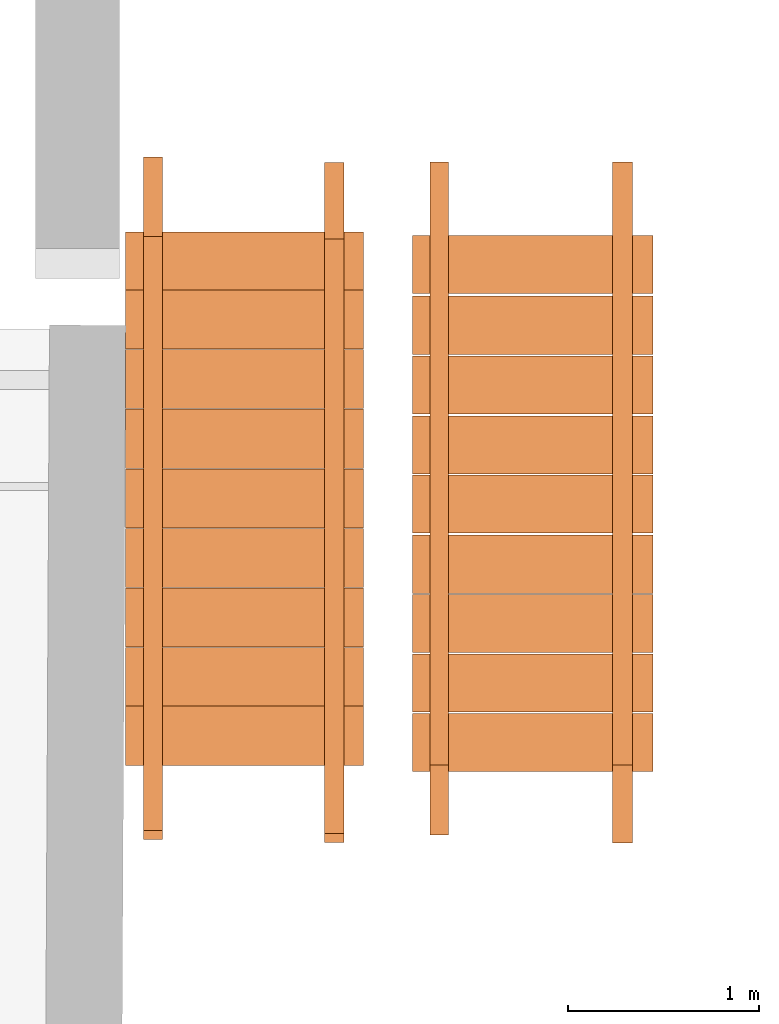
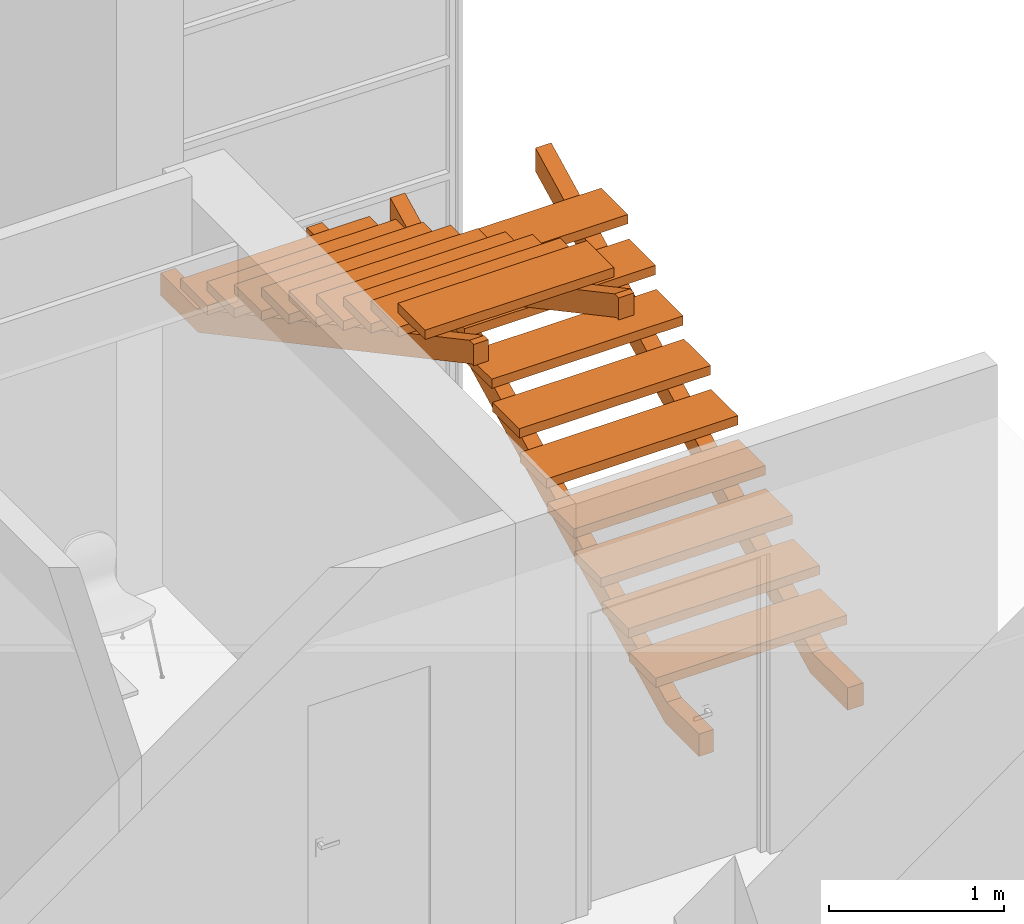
# One storey, part 18 of 19: 6 proxies.
"""IFC2X3 building model written with IfcOpenShell, lengths in millimetres."""

from ifc_helpers import new_model, entity, si_unit, converted_unit, derived_unit, direction, frame, frame_2d, origin, origin_2d_with_axis, place, context, subcontext, project, spatial, polyline, rectangle, outline, extrude, source, transform, mapped, type_object, type_shapes, element, save


model = new_model("IFC2X3")

# Units and contexts
model_context = context("Model", 3, precision=0.01, world=origin(), true_north=direction((6.12303176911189e-17, 1.0)))
context_of_model = context(None, 3, precision=0.01, world=origin(), true_north=direction((6.12303176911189e-17, 1.0)))
body_context = subcontext(model_context, "Body", "Model", "MODEL_VIEW")
ifc_project = project(units=[si_unit("LENGTHUNIT", "METRE", prefix="MILLI"), si_unit("AREAUNIT", "SQUARE_METRE"), si_unit("VOLUMEUNIT", "CUBIC_METRE"), converted_unit("PLANEANGLEUNIT", "DEGREE", entity("IfcRatioMeasure", 0.0174532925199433), si_unit("PLANEANGLEUNIT", "RADIAN"), dimensions=[0, 0, 0, 0, 0, 0, 0]), si_unit("MASSUNIT", "GRAM", prefix="KILO"), derived_unit("MASSDENSITYUNIT", [(si_unit("MASSUNIT", "GRAM", prefix="KILO"), 1), (si_unit("LENGTHUNIT", "METRE"), -3)]), si_unit("TIMEUNIT", "SECOND"), si_unit("FREQUENCYUNIT", "HERTZ"), si_unit("THERMODYNAMICTEMPERATUREUNIT", "DEGREE_CELSIUS"), derived_unit("THERMALTRANSMITTANCEUNIT", [(si_unit("MASSUNIT", "GRAM", prefix="KILO"), 1), (si_unit("THERMODYNAMICTEMPERATUREUNIT", "KELVIN"), -1), (si_unit("TIMEUNIT", "SECOND"), -3)]), derived_unit("VOLUMETRICFLOWRATEUNIT", [(si_unit("LENGTHUNIT", "METRE"), 3), (si_unit("TIMEUNIT", "SECOND"), -1)]), si_unit("ELECTRICCURRENTUNIT", "AMPERE"), si_unit("ELECTRICVOLTAGEUNIT", "VOLT"), si_unit("POWERUNIT", "WATT"), si_unit("FORCEUNIT", "NEWTON", prefix="KILO"), si_unit("ILLUMINANCEUNIT", "LUX"), si_unit("LUMINOUSFLUXUNIT", "LUMEN"), si_unit("LUMINOUSINTENSITYUNIT", "CANDELA"), derived_unit("USERDEFINED", [(si_unit("MASSUNIT", "GRAM", prefix="KILO"), -1), (si_unit("LENGTHUNIT", "METRE"), -2), (si_unit("TIMEUNIT", "SECOND"), 3), (si_unit("LUMINOUSFLUXUNIT", "LUMEN"), 1)]), derived_unit("LINEARVELOCITYUNIT", [(si_unit("LENGTHUNIT", "METRE"), 1), (si_unit("TIMEUNIT", "SECOND"), -1)]), si_unit("PRESSUREUNIT", "PASCAL"), derived_unit("USERDEFINED", [(si_unit("LENGTHUNIT", "METRE"), -2), (si_unit("MASSUNIT", "GRAM", prefix="KILO"), 1), (si_unit("TIMEUNIT", "SECOND"), -2)])], contexts=[model_context, context_of_model])

# Site, building, storey, space
site_placement = place(None, frame((121442.264707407, 135347.995453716, -1800.0)))
site = spatial("IfcSite", under=ifc_project, at=site_placement, Name="Surface", CompositionType="ELEMENT")
building_placement = place(site_placement, origin())
building = spatial("IfcBuilding", under=site, at=building_placement, CompositionType="ELEMENT")
storey_placement = place(building_placement, frame((0.0, 0.0, 5125.0)))
storey = spatial("IfcBuildingStorey", under=building, at=storey_placement, Name="2 korrus", CompositionType="ELEMENT", Elevation=5125.00000000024)
space_placement = place(storey_placement, origin())
space = spatial("IfcSpace", under=storey, at=space_placement, Name="201", CompositionType="ELEMENT", InteriorOrExteriorSpace="INTERNAL")

# Proxies
building_element_proxy_type_1 = type_object("IfcBuildingElementProxyType", Name="Stairs15", PredefinedType="NOTDEFINED")
shared_shape_1 = source(origin(), body_context, "Body", "SweptSolid", [
    extrude(rectangle(XDim=1261.93164285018, YDim=305.0, at=frame_2d((-8.64019966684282e-12, -8.65441052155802e-12), x_axis=(1.0, 0.0))), frame((-83152.8996527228, -114766.549071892, 6430.85451576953), z_axis=(0.0, 0.0, 1.0), x_axis=(-1.0, 0.0, 0.0)), (0.0, 0.0, 1.0), 65.0000000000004),
    extrude(rectangle(XDim=1261.93164285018, YDim=305.0, at=frame_2d((-8.64019966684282e-12, -8.65441052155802e-12), x_axis=(1.0, 0.0))), frame((-83152.8996527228, -117270.487652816, 5156.18791837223), z_axis=(0.0, 0.0, 1.0), x_axis=(-1.0, 0.0, 0.0)), (0.0, 0.0, 1.0), 65.0000000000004),
    extrude(rectangle(XDim=1261.93164285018, YDim=305.0, at=frame_2d((-8.64019966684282e-12, 8.65441052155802e-12), x_axis=(1.0, 0.0))), frame((-83152.8996527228, -116958.678720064, 5313.35451576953), z_axis=(0.0, 0.0, 1.0), x_axis=(-1.0, 0.0, 0.0)), (0.0, 0.0, 1.0), 65.0000000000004),
    extrude(rectangle(XDim=1261.93164285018, YDim=305.0, at=frame_2d((-8.64019966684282e-12, 8.65441052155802e-12), x_axis=(1.0, 0.0))), frame((-83152.8996527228, -116646.549071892, 5475.85451576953), z_axis=(0.0, 0.0, 1.0), x_axis=(-1.0, 0.0, 0.0)), (0.0, 0.0, 1.0), 65.0000000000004),
    extrude(rectangle(XDim=1261.93164285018, YDim=305.0, at=frame_2d((-8.64019966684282e-12, -8.65441052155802e-12), x_axis=(1.0, 0.0))), frame((-83152.8996527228, -116336.549071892, 5630.85451576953), z_axis=(0.0, 0.0, 1.0), x_axis=(-1.0, 0.0, 0.0)), (0.0, 0.0, 1.0), 65.0000000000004),
    extrude(rectangle(XDim=1261.93164285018, YDim=305.0, at=frame_2d((-8.64019966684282e-12, 8.65441052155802e-12), x_axis=(1.0, 0.0))), frame((-83152.8996527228, -116021.549071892, 5788.35451576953), z_axis=(0.0, 0.0, 1.0), x_axis=(-1.0, 0.0, 0.0)), (0.0, 0.0, 1.0), 65.0000000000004),
    extrude(rectangle(XDim=1261.93164285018, YDim=305.0, at=frame_2d((-8.64019966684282e-12, -8.65441052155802e-12), x_axis=(1.0, 0.0))), frame((-83152.8996527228, -115711.549071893, 5950.85451576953), z_axis=(0.0, 0.0, 1.0), x_axis=(-1.0, 0.0, 0.0)), (0.0, 0.0, 1.0), 65.0000000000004),
    extrude(rectangle(XDim=1261.93164285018, YDim=305.0, at=frame_2d((-8.64019966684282e-12, 8.65441052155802e-12), x_axis=(1.0, 0.0))), frame((-83152.8996527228, -115396.549071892, 6105.85451576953), z_axis=(0.0, 0.0, 1.0), x_axis=(-1.0, 0.0, 0.0)), (0.0, 0.0, 1.0), 65.0000000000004),
    extrude(rectangle(XDim=1261.93164285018, YDim=305.0, at=frame_2d((-8.64019966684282e-12, -8.65441052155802e-12), x_axis=(1.0, 0.0))), frame((-83152.8996527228, -115084.049071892, 6268.35451576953), z_axis=(0.0, 0.0, 1.0), x_axis=(-1.0, 0.0, 0.0)), (0.0, 0.0, 1.0), 65.0000000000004),
])
type_shapes(building_element_proxy_type_1, [shared_shape_1])
proxy_1_placement = place(space_placement, frame((0.0, 0.0, -5125.0)))
element("IfcBuildingElementProxy", 1, at=proxy_1_placement, inside=space, type_object=building_element_proxy_type_1, Name="Stairs15:Stairs15", ObjectType="Stairs15", context=body_context, shape_type="MappedRepresentation", body=[
    mapped(shared_shape_1, transform((0.0, 0.0, 0.0), scale=1.0)),
])
building_element_proxy_type_2 = type_object("IfcBuildingElementProxyType", Name="Stairs16", PredefinedType="NOTDEFINED")
shared_shape_2 = source(origin(), body_context, "Body", "SweptSolid", [
    extrude(outline(polyline([(-1094.74486873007, -129.385692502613), (2430.45981915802, -129.385692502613), (2504.34585970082, 16.2040831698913), (-1038.12755753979, 16.2040831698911), (-1365.79195451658, 182.492030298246), (-1436.14129807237, 43.8711883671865), (-1094.74486873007, -129.385692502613)])), frame((-83691.8320065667, -116455.665561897, 5456.2711639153), z_axis=(1.0, 0.0, 0.0), x_axis=(0.0, 0.891737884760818, 0.45255225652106)), (0.0, 0.0, 1.0), 97.4006217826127),
])
type_shapes(building_element_proxy_type_2, [shared_shape_2])
proxy_2_placement = place(space_placement, frame((0.0, 0.0, -5125.0)))
element("IfcBuildingElementProxy", 2, at=proxy_2_placement, inside=space, type_object=building_element_proxy_type_2, Name="Stairs16:Stairs16", ObjectType="Stairs16", context=body_context, shape_type="MappedRepresentation", body=[
    mapped(shared_shape_2, transform((0.0, 0.0, 0.0), scale=1.0)),
])
building_element_proxy_type_3 = type_object("IfcBuildingElementProxyType", Name="Stairs16", PredefinedType="NOTDEFINED")
shared_shape_3 = source(origin(), body_context, "Body", "SweptSolid", [
    extrude(outline(polyline([(-1082.70760831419, -135.494538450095), (2442.4970795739, -135.494538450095), (2516.3831201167, 10.0952372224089), (-1026.09029712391, 10.0952372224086), (-1389.86647534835, 194.709722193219), (-1460.21581890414, 56.0888802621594), (-1082.70760831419, -135.494538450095)])), frame((-82733.909924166, -116469.164215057, 5456.2711639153), z_axis=(1.0, 0.0, 0.0), x_axis=(0.0, 0.891737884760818, 0.45255225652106)), (0.0, 0.0, 1.0), 104.019077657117),
])
type_shapes(building_element_proxy_type_3, [shared_shape_3])
proxy_3_placement = place(space_placement, frame((0.0, 0.0, -5113.21850436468)))
element("IfcBuildingElementProxy", 3, at=proxy_3_placement, inside=space, type_object=building_element_proxy_type_3, Name="Stairs17:Stairs16", ObjectType="Stairs16", context=body_context, shape_type="MappedRepresentation", body=[
    mapped(shared_shape_3, transform((0.0, 0.0, 0.0), scale=1.0)),
])
building_element_proxy_type_4 = type_object("IfcBuildingElementProxyType", Name="Stairs18", PredefinedType="NOTDEFINED")
shared_shape_4 = source(origin(), body_context, "Body", "SweptSolid", [
    extrude(rectangle(XDim=1246.26444333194, YDim=309.999999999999, at=origin_2d_with_axis()), frame((-84663.7562702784, -117235.46902166, 8090.74962839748), z_axis=(0.0, 0.0, 1.0), x_axis=(-1.0, 0.0, 0.0)), (0.0, 0.0, 1.0), 65.0000000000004),
    extrude(rectangle(XDim=1246.26444333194, YDim=309.999999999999, at=origin_2d_with_axis()), frame((-84663.7562702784, -114749.31977467, 6753.24962839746), z_axis=(0.0, 0.0, 1.0), x_axis=(-1.0, 0.0, 0.0)), (0.0, 0.0, 1.0), 65.0000000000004),
    extrude(rectangle(XDim=1246.26444333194, YDim=309.999999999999, at=origin_2d_with_axis()), frame((-84663.7562702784, -115679.193341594, 7255.74962839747), z_axis=(0.0, 0.0, 1.0), x_axis=(-1.0, 0.0, 0.0)), (0.0, 0.0, 1.0), 65.0000000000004),
    extrude(rectangle(XDim=1246.26444333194, YDim=309.999999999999, at=origin_2d_with_axis()), frame((-84663.7562702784, -115991.693341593, 7423.24962839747), z_axis=(0.0, 0.0, 1.0), x_axis=(-1.0, 0.0, 0.0)), (0.0, 0.0, 1.0), 65.0000000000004),
    extrude(rectangle(XDim=1246.26444333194, YDim=309.999999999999, at=frame_2d((0.0, 1.73230318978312e-11), x_axis=(1.0, 0.0))), frame((-84663.7562702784, -116304.193341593, 7588.24962839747), z_axis=(0.0, 0.0, 1.0), x_axis=(-1.0, 0.0, 0.0)), (0.0, 0.0, 1.0), 65.0000000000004),
    extrude(rectangle(XDim=1246.26444333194, YDim=309.999999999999, at=origin_2d_with_axis()), frame((-84663.7562702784, -116615.46902166, 7758.24962839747), z_axis=(0.0, 0.0, 1.0), x_axis=(-1.0, 0.0, 0.0)), (0.0, 0.0, 1.0), 65.0000000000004),
    extrude(rectangle(XDim=1246.26444333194, YDim=309.999999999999, at=frame_2d((0.0, -1.73230318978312e-11), x_axis=(1.0, 0.0))), frame((-84663.7562702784, -116927.96902166, 7923.24962839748), z_axis=(0.0, 0.0, 1.0), x_axis=(-1.0, 0.0, 0.0)), (0.0, 0.0, 1.0), 65.0000000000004),
    extrude(rectangle(XDim=1246.26444333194, YDim=309.999999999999, at=origin_2d_with_axis()), frame((-84663.7562702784, -115366.693341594, 7088.24962839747), z_axis=(0.0, 0.0, 1.0), x_axis=(-1.0, 0.0, 0.0)), (0.0, 0.0, 1.0), 65.0000000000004),
    extrude(rectangle(XDim=1246.26444333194, YDim=309.999999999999, at=frame_2d((0.0, 1.73230318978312e-11), x_axis=(1.0, 0.0))), frame((-84663.7562702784, -115054.31977467, 6918.24962839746), z_axis=(0.0, 0.0, 1.0), x_axis=(-1.0, 0.0, 0.0)), (0.0, 0.0, 1.0), 65.0000000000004),
])
type_shapes(building_element_proxy_type_4, [shared_shape_4])
proxy_4_placement = place(space_placement, frame((0.0, 0.0, -5125.0)))
element("IfcBuildingElementProxy", 4, at=proxy_4_placement, inside=space, type_object=building_element_proxy_type_4, Name="Stairs18:Stairs18", ObjectType="Stairs18", context=body_context, shape_type="MappedRepresentation", body=[
    mapped(shared_shape_4, transform((0.0, 0.0, 0.0), scale=1.0)),
])
building_element_proxy_type_5 = type_object("IfcBuildingElementProxyType", Name="Stairs19", PredefinedType="NOTDEFINED")
shared_shape_5 = source(origin(), body_context, "Body", "SweptSolid", [
    extrude(outline(polyline([(1457.15450192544, -912.840594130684), (1875.34821573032, -912.840594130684), (1875.34821573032, -757.840594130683), (1472.11246053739, -757.840594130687), (-1641.76029029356, 912.235568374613), (-1689.61435113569, 912.23556837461), (-1689.61435113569, 758.445619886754), (-1658.97440135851, 758.445619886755), (1457.15450192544, -912.840594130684)])), frame((-84243.473117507, -116105.386555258, 7347.68790674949), z_axis=(1.0, 0.0, 0.0), x_axis=(0.0, 1.0, 0.0)), (0.0, 0.0, 1.0), 102.010306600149),
])
type_shapes(building_element_proxy_type_5, [shared_shape_5])
proxy_5_placement = place(space_placement, frame((0.0, 0.0, -5125.0)))
element("IfcBuildingElementProxy", 5, at=proxy_5_placement, inside=space, type_object=building_element_proxy_type_5, Name="Stairs19:Stairs19", ObjectType="Stairs19", context=body_context, shape_type="MappedRepresentation", body=[
    mapped(shared_shape_5, transform((0.0, 0.0, 0.0), scale=1.0)),
])
building_element_proxy_type_6 = type_object("IfcBuildingElementProxyType", Name="Stairs19", PredefinedType="NOTDEFINED")
shared_shape_6 = source(origin(), body_context, "Body", "SweptSolid", [
    extrude(outline(polyline([(1455.17239816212, -913.880511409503), (1885.17239816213, -913.880511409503), (1885.17239816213, -758.880511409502), (1470.13035677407, -758.880511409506), (-1643.74239405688, 911.195651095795), (-1691.59645489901, 911.195651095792), (-1691.59645489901, 761.56537172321), (-1668.71224740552, 761.565371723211), (1455.17239816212, -913.880511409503)])), frame((-85191.4577239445, -116103.404451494, 7348.72782402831), z_axis=(1.0, 0.0, 0.0), x_axis=(0.0, 1.0, 0.0)), (0.0, 0.0, 1.0), 98.0260068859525),
])
type_shapes(building_element_proxy_type_6, [shared_shape_6])
proxy_6_placement = place(space_placement, frame((0.0, 15.0, -5126.0362979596)))
element("IfcBuildingElementProxy", 6, at=proxy_6_placement, inside=space, type_object=building_element_proxy_type_6, Name="Stairs20:Stairs19", ObjectType="Stairs19", context=body_context, shape_type="MappedRepresentation", body=[
    mapped(shared_shape_6, transform((0.0, 0.0, 0.0), scale=1.0)),
])

save(model, "model.ifc")
